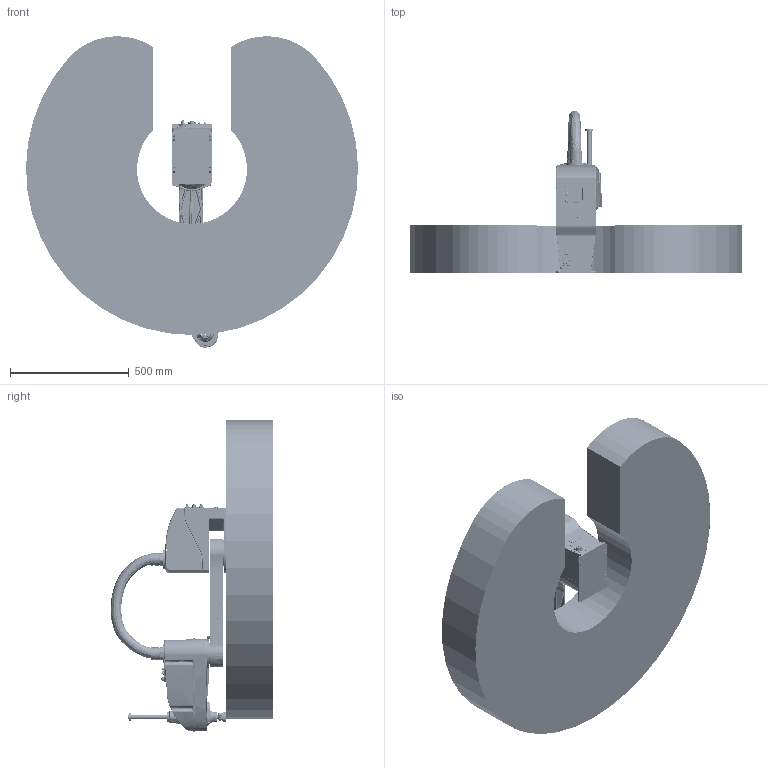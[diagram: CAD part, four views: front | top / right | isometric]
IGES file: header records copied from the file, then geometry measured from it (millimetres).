
Start section: SolidWorks IGES file using analytic representation for surfaces
Global section: file name: D:\PDM\QKM_PDM\01_SP研发\021AH6\05_对外发布模型\AH6-0700-0204-2000\IGS\AH6-0700-0204-2000-T0-2.0.0.IGS; native system: SolidWorks 2017; preprocessor: SolidWorks 2017; author: gsliang; date: 200423.164949; units: millimetre
Bounding box: 1399.88 x 686.35 x 1312.47 mm (x, y, z)
Surface area: 4793818.4 mm2 (no closed solid volume)
Topology: 0 solids, 0 shells, 6622 faces, 71542 edges, 71433 vertices
Faces by surface type: bspline 4996, revolution 1626
